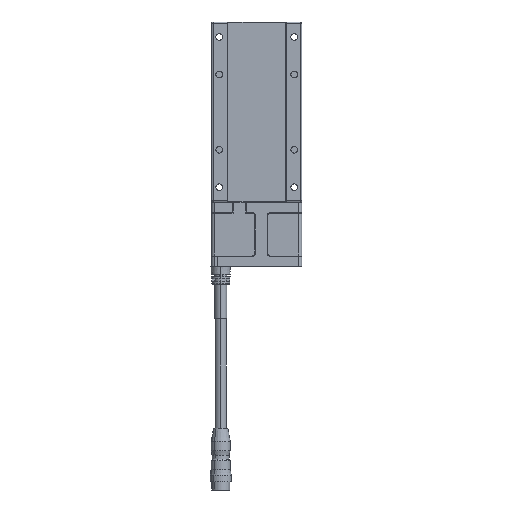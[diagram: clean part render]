
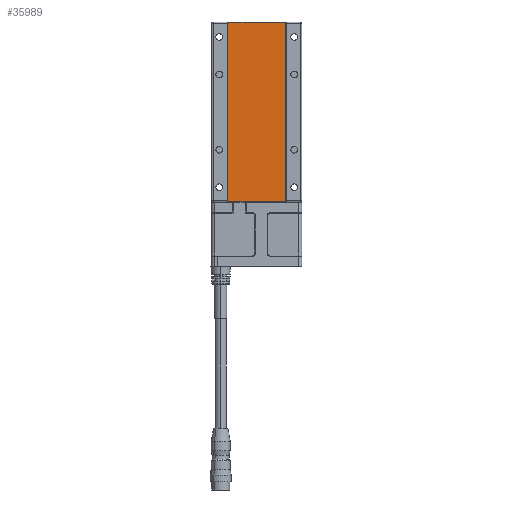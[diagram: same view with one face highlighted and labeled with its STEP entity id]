
A CAD part, front view. The second image highlights one B-rep face of the part: STEP entity #35989.
In plain terms, the highlighted planar face has unit normal (0, -1, 0).
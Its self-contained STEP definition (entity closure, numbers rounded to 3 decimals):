
#585 = EDGE_CURVE ( 'NONE', #75077, #30266, #5406, .T. ) ;
#1586 = CARTESIAN_POINT ( 'NONE',  ( 26.298, -5.179, 42.908 ) ) ;
#5383 = VERTEX_POINT ( 'NONE', #61183 ) ;
#5406 = LINE ( 'NONE', #79115, #36794 ) ;
#9564 = ORIENTED_EDGE ( 'NONE', *, *, #92322, .T. ) ;
#12287 = VERTEX_POINT ( 'NONE', #72743 ) ;
#15072 = VECTOR ( 'NONE', #107936, 1000. ) ;
#18313 = EDGE_LOOP ( 'NONE', ( #50792, #9564, #72930, #65878 ) ) ;
#19878 = EDGE_CURVE ( 'NONE', #5383, #75077, #98665, .T. ) ;
#21573 = CARTESIAN_POINT ( 'NONE',  ( -12.302, -5.179, -76.692 ) ) ;
#24707 = DIRECTION ( 'NONE',  ( -1., 0., 0. ) ) ;
#26939 = EDGE_CURVE ( 'NONE', #30266, #12287, #58411, .T. ) ;
#30266 = VERTEX_POINT ( 'NONE', #36939 ) ;
#35989 = ADVANCED_FACE ( 'NONE', ( #90062 ), #81287, .F. ) ;
#36794 = VECTOR ( 'NONE', #38739, 1000. ) ;
#36939 = CARTESIAN_POINT ( 'NONE',  ( 26.298, -5.179, -76.692 ) ) ;
#38739 = DIRECTION ( 'NONE',  ( 1., 0., 0. ) ) ;
#41344 = CARTESIAN_POINT ( 'NONE',  ( -12.302, -5.179, 42.908 ) ) ;
#41517 = DIRECTION ( 'NONE',  ( 0., 0., 1. ) ) ;
#43817 = VECTOR ( 'NONE', #41517, 1000. ) ;
#50792 = ORIENTED_EDGE ( 'NONE', *, *, #26939, .T. ) ;
#58357 = DIRECTION ( 'NONE',  ( 0., 1., 0. ) ) ;
#58411 = LINE ( 'NONE', #1586, #43817 ) ;
#61183 = CARTESIAN_POINT ( 'NONE',  ( -12.302, -5.179, 42.908 ) ) ;
#62639 = AXIS2_PLACEMENT_3D ( 'NONE', #73105, #58357, #73660 ) ;
#65878 = ORIENTED_EDGE ( 'NONE', *, *, #585, .T. ) ;
#72302 = VECTOR ( 'NONE', #24707, 1000. ) ;
#72743 = CARTESIAN_POINT ( 'NONE',  ( 26.298, -5.179, 42.908 ) ) ;
#72930 = ORIENTED_EDGE ( 'NONE', *, *, #19878, .T. ) ;
#73105 = CARTESIAN_POINT ( 'NONE',  ( 26.298, -5.179, -76.692 ) ) ;
#73660 = DIRECTION ( 'NONE',  ( 1., 0., 0. ) ) ;
#75077 = VERTEX_POINT ( 'NONE', #21573 ) ;
#79115 = CARTESIAN_POINT ( 'NONE',  ( 26.298, -5.179, -76.692 ) ) ;
#79995 = LINE ( 'NONE', #105153, #72302 ) ;
#81287 = PLANE ( 'NONE',  #62639 ) ;
#90062 = FACE_OUTER_BOUND ( 'NONE', #18313, .T. ) ;
#92322 = EDGE_CURVE ( 'NONE', #12287, #5383, #79995, .T. ) ;
#98665 = LINE ( 'NONE', #41344, #15072 ) ;
#105153 = CARTESIAN_POINT ( 'NONE',  ( 26.298, -5.179, 42.908 ) ) ;
#107936 = DIRECTION ( 'NONE',  ( 0., 0., -1. ) ) ;
